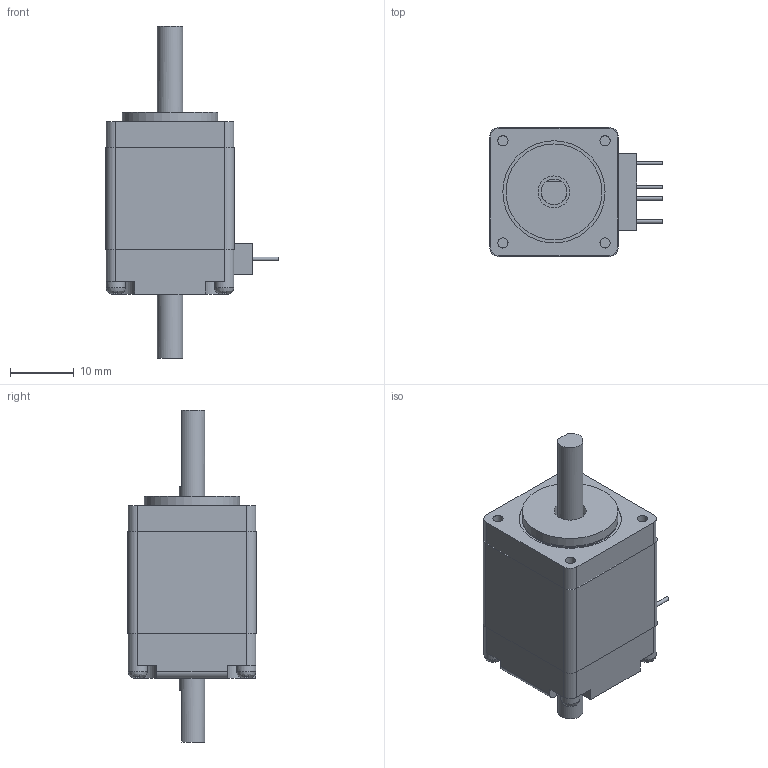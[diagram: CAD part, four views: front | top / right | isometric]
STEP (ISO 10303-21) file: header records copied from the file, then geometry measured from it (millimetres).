
FILE_DESCRIPTION(/* description */ (''),/* implementation_level */ '2;1');
FILE_NAME(/* name */ '20MMbujdianji shuangchuzhou.stp',/* time_stamp */ '2018-08-08T14:25:45+08:00',/* author */ (''),/* organization */ (''),/* preprocessor_version */ 'ST-DEVELOPER v11',/* originating_system */ 'SIEMENS UGS NX 6.0',/* authorisation */ '');
FILE_SCHEMA (('CONFIG_CONTROL_DESIGN'));
Length unit declared in the file: millimetre
Products named in the file (1): 20MMbujdianji
Bounding box: 27.1 x 20.2 x 52 mm (x, y, z)
Volume: 17701.7 mm3; surface area: 6479.8 mm2
Topology: 8 solids, 8 shells, 191 faces, 479 edges, 317 vertices
Faces by surface type: plane 150, cylinder 33, cone 4, bspline 4
Full cylindrical faces by diameter (mm): 0.558 x1, 0.566 x1, 0.575 x1, 0.581 x1, 1.6 x4, 3 x3, 3.014 x1, 4 x3, 5 x3, 15 x2, 16 x1
Entity records: 5839 total; most frequent: CARTESIAN_POINT 1421, ORIENTED_EDGE 866, DIRECTION 849, EDGE_CURVE 433, VERTEX_POINT 304, LINE 297, VECTOR 297, AXIS2_PLACEMENT_3D 276
